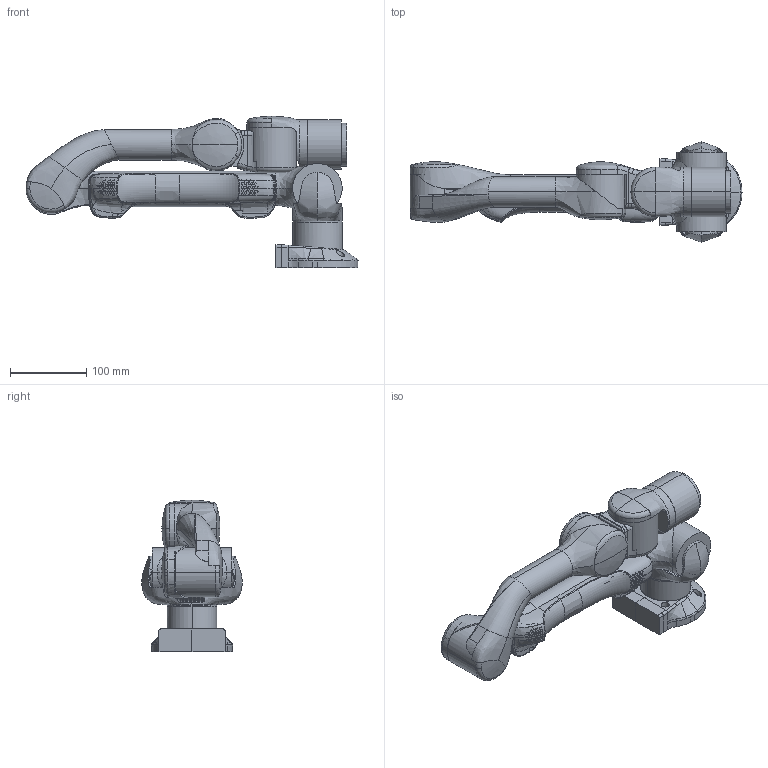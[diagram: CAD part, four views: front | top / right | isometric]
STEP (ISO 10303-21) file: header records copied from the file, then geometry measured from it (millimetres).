
FILE_DESCRIPTION (( 'STEP AP203' ), '1' );
FILE_NAME ('Z1-pro.STEP', '2022-07-06T03:20:10', ( 'u' ), ( '' ), 'SwSTEP 2.0', 'SolidWorks 2018', '' );
FILE_SCHEMA (( 'CONFIG_CONTROL_DESIGN' ));
Length unit declared in the file: millimetre
Products named in the file (10): UArm-V3.6-01-Main arm-simplified^Z1(2)_Z1; Z1-pro; UArm-V3.6-4-Base-simplified^Z1(2)_Z1; UArm-V3.6-01-Wrist-back-simplified^Z1(2)_Z1; UArm-V3.6-01-Secondary arm-simplified^Z1(2)_Z1; UArm-V3.6-01-Shoulder-simplified^Z1(2)_Z1; UArm-20220106-07B-01散热外壳(改); UArm-V3.6-01-End joint-simplified^Z1(2)_Z1; Z1(2)^Z1; UArm-V3.6-01-Wrist-front-simplified^Z1(2)_Z1
Assembly tree (9 placements, depth 3):
  Z1-pro
    Z1(2)^Z1
      UArm-V3.6-4-Base-simplified^Z1(2)_Z1
      UArm-V3.6-01-Shoulder-simplified^Z1(2)_Z1
      UArm-V3.6-01-Main arm-simplified^Z1(2)_Z1
      UArm-V3.6-01-Secondary arm-simplified^Z1(2)_Z1
      UArm-V3.6-01-Wrist-back-simplified^Z1(2)_Z1
      UArm-V3.6-01-Wrist-front-simplified^Z1(2)_Z1
      UArm-V3.6-01-End joint-simplified^Z1(2)_Z1
    UArm-20220106-07B-01散热外壳(改)
Bounding box: 435.75 x 131.84 x 199 mm (x, y, z)
Volume: 1831130.3 mm3; surface area: 336195 mm2
Topology: 7 solids, 8 shells, 1616 faces, 4802 edges, 3061 vertices
Faces by surface type: bspline 707, plane 669, cylinder 221, torus 17, sphere 2
Entity records: 213421 total; most frequent: CARTESIAN_POINT 178588, ORIENTED_EDGE 9577, EDGE_CURVE 4790, B_SPLINE_CURVE_WITH_KNOTS 3819, VERTEX_POINT 3060, DIRECTION 2991, EDGE_LOOP 1771, ADVANCED_FACE 1616
